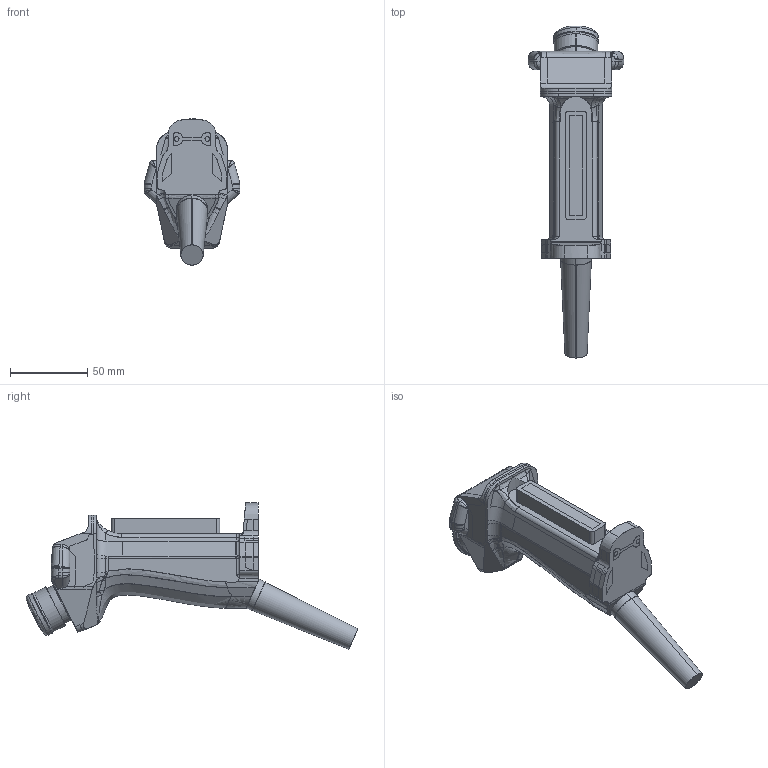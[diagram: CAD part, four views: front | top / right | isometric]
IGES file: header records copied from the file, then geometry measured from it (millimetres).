
Start section: SolidWorks IGES file using analytic representation for surfaces
Global section: file name: C:\catalog\sg-c1-21-e.IGS; native system: SolidWorks 2019; preprocessor: SolidWorks 2019; author: 5131475; date: 230405.103755; units: millimetre
Bounding box: 62 x 214.59 x 94.55 mm (x, y, z)
Surface area: 34326.2 mm2 (no closed solid volume)
Topology: 0 solids, 0 shells, 434 faces, 4808 edges, 4787 vertices
Faces by surface type: bspline 328, revolution 106
